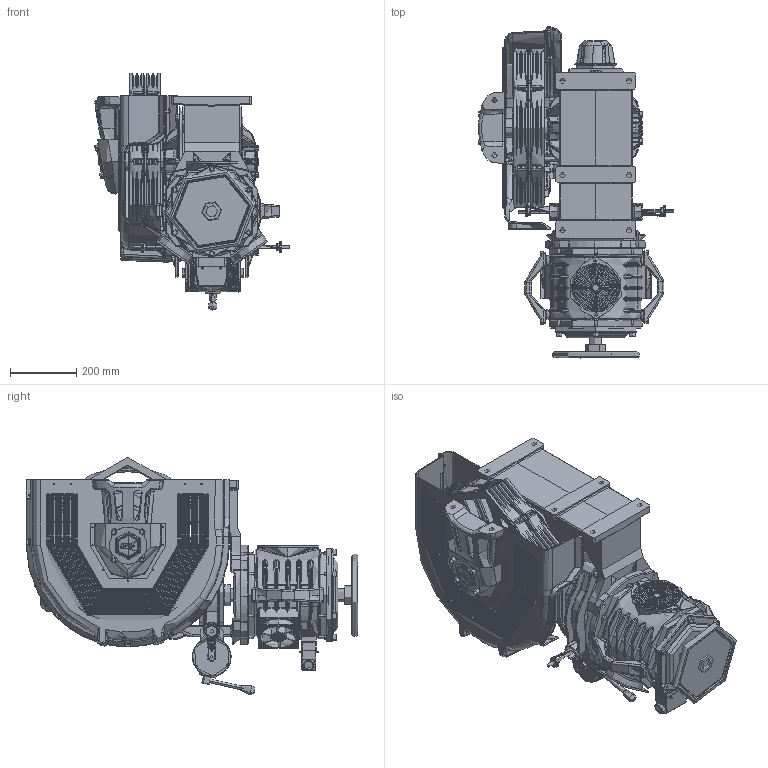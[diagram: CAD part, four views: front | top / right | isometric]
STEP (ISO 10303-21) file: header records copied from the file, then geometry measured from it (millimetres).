
FILE_DESCRIPTION (( 'STEP AP214' ), '1' );
FILE_NAME ('ST55100.STEP', '2026-01-14T08:27:45', ( '' ), ( '' ), 'SwSTEP 2.0', 'SolidWorks 2023', '' );
FILE_SCHEMA (( 'AUTOMOTIVE_DESIGN' ));
Length unit declared in the file: millimetre
Products named in the file (1): ST55100
Bounding box: 586.99 x 998.18 x 714.18 mm (x, y, z)
Topology: 89 solids, 97 shells, 8718 faces, 21409 edges, 12838 vertices
Faces by surface type: cylinder 2640, plane 2436, bspline 1757, torus 935, cone 697, sphere 253
Full cylindrical faces by diameter (mm): 20 x3
Entity records: 334921 total; most frequent: CARTESIAN_POINT 139413, ORIENTED_EDGE 42520, DIRECTION 38787, EDGE_CURVE 21260, AXIS2_PLACEMENT_3D 15642, VERTEX_POINT 12802, EDGE_LOOP 9648, ADVANCED_FACE 8716
